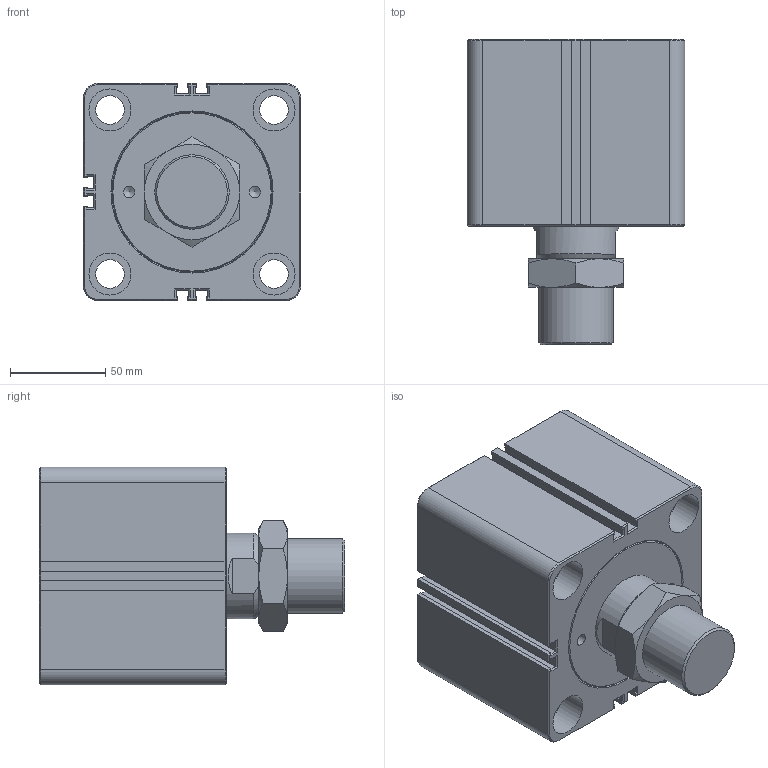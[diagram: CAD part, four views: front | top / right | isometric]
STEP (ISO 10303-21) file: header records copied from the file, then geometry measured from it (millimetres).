
FILE_DESCRIPTION(/* description */ (''),/* implementation_level */ '2;1');
FILE_NAME(/* name */ 'HTM70-SDMB80X20W',/* time_stamp */ '2019-06-05T16:23:51+08:00',/* author */ ('JEFF HUANG'),/* organization */ ('TAIWAN AMAC CLAMP INDUSTRIAL CO., LTD.'),/* preprocessor_version */ 'ST-DEVELOPER v16.7',/* originating_system */ 'DEX',/* authorisation */ $);
FILE_SCHEMA (('AUTOMOTIVE_DESIGN {1 0 10303 214 3 1 1}'));
Length unit declared in the file: millimetre
Products named in the file (1): HTM70-SDMB80X20W
Bounding box: 114 x 160 x 114 mm (x, y, z)
Volume: 1243622 mm3; surface area: 108673.3 mm2
Topology: 1 solids, 1 shells, 301 faces, 676 edges, 397 vertices
Faces by surface type: plane 188, cone 50, bspline 36, cylinder 27
Full cylindrical faces by diameter (mm): 6 x1, 6.1 x2, 7 x2, 15 x6, 16.5 x2, 22 x8, 39 x1, 45 x1
Entity records: 10353 total; most frequent: CARTESIAN_POINT 2044, ORIENTED_EDGE 1248, DIRECTION 1172, EDGE_CURVE 624, LINE 408, VECTOR 408, VERTEX_POINT 382, AXIS2_PLACEMENT_3D 382
